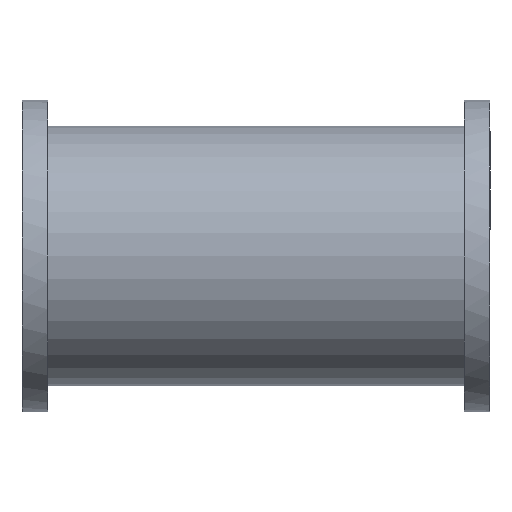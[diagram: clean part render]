
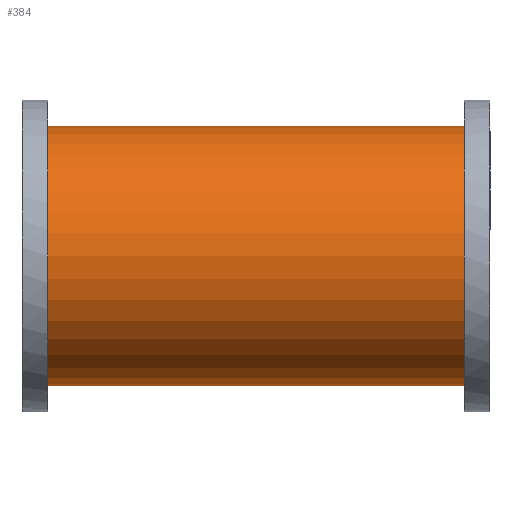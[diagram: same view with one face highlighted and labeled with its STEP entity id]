
A CAD part, front view. The second image highlights one B-rep face of the part: STEP entity #384.
In plain terms, the highlighted cylindrical face has radius 127 mm (diameter 254 mm), a full revolution.
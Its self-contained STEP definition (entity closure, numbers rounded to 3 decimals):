
#384 = ADVANCED_FACE( '', ( #926, #927 ), #928, .T. );
#926 = FACE_OUTER_BOUND( '', #1465, .T. );
#927 = FACE_OUTER_BOUND( '', #1466, .T. );
#928 = CYLINDRICAL_SURFACE( '', #1467, 127. );
#1465 = EDGE_LOOP( '', ( #2177 ) );
#1466 = EDGE_LOOP( '', ( #2178 ) );
#1467 = AXIS2_PLACEMENT_3D( '', #2179, #2180, #2181 );
#2177 = ORIENTED_EDGE( '', *, *, #2404, .T. );
#2178 = ORIENTED_EDGE( '', *, *, #2484, .F. );
#2179 = CARTESIAN_POINT( '', ( 0., 432.6, 0. ) );
#2180 = DIRECTION( '', ( 0., 1., 0. ) );
#2181 = DIRECTION( '', ( 0., 0., -1. ) );
#2404 = EDGE_CURVE( '', #2768, #2768, #2769, .T. );
#2484 = EDGE_CURVE( '', #2905, #2905, #2906, .T. );
#2768 = VERTEX_POINT( '', #3352 );
#2769 = CIRCLE( '', #3353, 127. );
#2905 = VERTEX_POINT( '', #3491 );
#2906 = CIRCLE( '', #3492, 127. );
#3352 = CARTESIAN_POINT( '', ( 127., 432.6, 0. ) );
#3353 = AXIS2_PLACEMENT_3D( '', #3824, #3825, #3826 );
#3491 = CARTESIAN_POINT( '', ( 127., 0., 0. ) );
#3492 = AXIS2_PLACEMENT_3D( '', #4003, #4004, #4005 );
#3824 = CARTESIAN_POINT( '', ( 0., 432.6, 0. ) );
#3825 = DIRECTION( '', ( 0., -1., 0. ) );
#3826 = DIRECTION( '', ( 1., 0., 0. ) );
#4003 = CARTESIAN_POINT( '', ( 0., 0., 0. ) );
#4004 = DIRECTION( '', ( 0., -1., 0. ) );
#4005 = DIRECTION( '', ( 1., 0., 0. ) );
